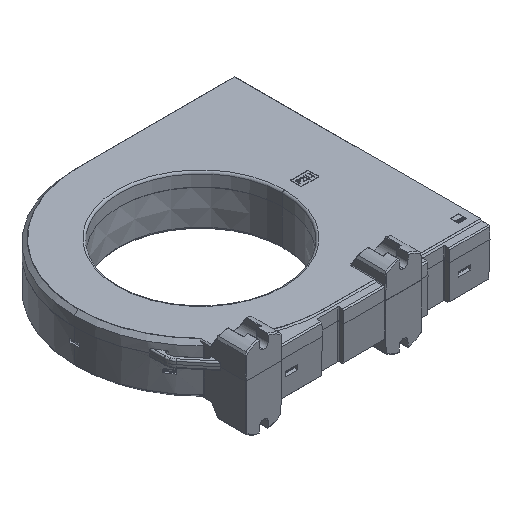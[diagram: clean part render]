
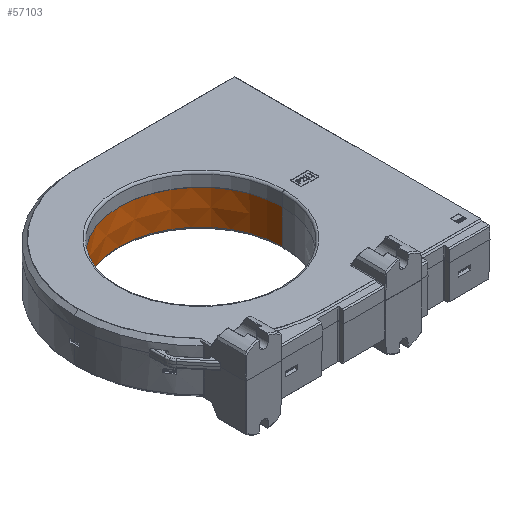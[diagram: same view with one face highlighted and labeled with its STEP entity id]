
A CAD part, isometric view. The second image highlights one B-rep face of the part: STEP entity #57103.
In plain terms, the highlighted conical face has half-angle 0.5 degrees and reference radius 60 mm.
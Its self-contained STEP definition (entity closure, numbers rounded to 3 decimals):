
#1458 = DIRECTION ( 'NONE',  ( 0., 0., -1. ) ) ;
#4272 = EDGE_CURVE ( 'NONE', #22580, #28081, #23158, .T. ) ;
#4919 = EDGE_CURVE ( 'NONE', #11095, #28081, #13641, .T. ) ;
#6306 = CARTESIAN_POINT ( 'NONE',  ( 0., 0., 8.5 ) ) ;
#6729 = CARTESIAN_POINT ( 'NONE',  ( 60., 0., 8.5 ) ) ;
#8512 = DIRECTION ( 'NONE',  ( -0.009, 0., -1. ) ) ;
#10814 = DIRECTION ( 'NONE',  ( 0.009, 0., -1. ) ) ;
#11095 = VERTEX_POINT ( 'NONE', #6729 ) ;
#11171 = EDGE_CURVE ( 'NONE', #11095, #26496, #61043, .T. ) ;
#12657 = CARTESIAN_POINT ( 'NONE',  ( 0., 0., 8.5 ) ) ;
#13641 = LINE ( 'NONE', #46094, #52318 ) ;
#14635 = DIRECTION ( 'NONE',  ( 0., 0., -1. ) ) ;
#16104 = LINE ( 'NONE', #63830, #54778 ) ;
#17696 = DIRECTION ( 'NONE',  ( 1., 0., 0. ) ) ;
#18052 = CARTESIAN_POINT ( 'NONE',  ( -60., 0., 8.5 ) ) ;
#22580 = VERTEX_POINT ( 'NONE', #30909 ) ;
#23158 = CIRCLE ( 'NONE', #34662, 60.223 ) ;
#23695 = CARTESIAN_POINT ( 'NONE',  ( 60.223, 0., -17.013 ) ) ;
#26496 = VERTEX_POINT ( 'NONE', #18052 ) ;
#28081 = VERTEX_POINT ( 'NONE', #23695 ) ;
#30909 = CARTESIAN_POINT ( 'NONE',  ( -60.223, 0., -17.013 ) ) ;
#31261 = FACE_OUTER_BOUND ( 'NONE', #60208, .T. ) ;
#34662 = AXIS2_PLACEMENT_3D ( 'NONE', #44887, #14635, #49972 ) ;
#37853 = EDGE_CURVE ( 'NONE', #26496, #22580, #16104, .T. ) ;
#41759 = DIRECTION ( 'NONE',  ( -1., 0., 0. ) ) ;
#43055 = CONICAL_SURFACE ( 'NONE', #62957, 60., 0.009 ) ;
#44887 = CARTESIAN_POINT ( 'NONE',  ( 0., 0., -17.013 ) ) ;
#46094 = CARTESIAN_POINT ( 'NONE',  ( 60., 0., 8.5 ) ) ;
#46680 = ORIENTED_EDGE ( 'NONE', *, *, #4919, .F. ) ;
#47954 = DIRECTION ( 'NONE',  ( 0., 0., 1. ) ) ;
#49972 = DIRECTION ( 'NONE',  ( -1., 0., 0. ) ) ;
#52318 = VECTOR ( 'NONE', #10814, 1000. ) ;
#52422 = ORIENTED_EDGE ( 'NONE', *, *, #37853, .T. ) ;
#54778 = VECTOR ( 'NONE', #8512, 1000. ) ;
#56311 = ORIENTED_EDGE ( 'NONE', *, *, #11171, .T. ) ;
#57103 = ADVANCED_FACE ( 'NONE', ( #31261 ), #43055, .F. ) ;
#57166 = AXIS2_PLACEMENT_3D ( 'NONE', #12657, #47954, #17696 ) ;
#60208 = EDGE_LOOP ( 'NONE', ( #46680, #56311, #52422, #60790 ) ) ;
#60790 = ORIENTED_EDGE ( 'NONE', *, *, #4272, .T. ) ;
#61043 = CIRCLE ( 'NONE', #57166, 60. ) ;
#62957 = AXIS2_PLACEMENT_3D ( 'NONE', #6306, #1458, #41759 ) ;
#63830 = CARTESIAN_POINT ( 'NONE',  ( -60., 0., 8.5 ) ) ;
